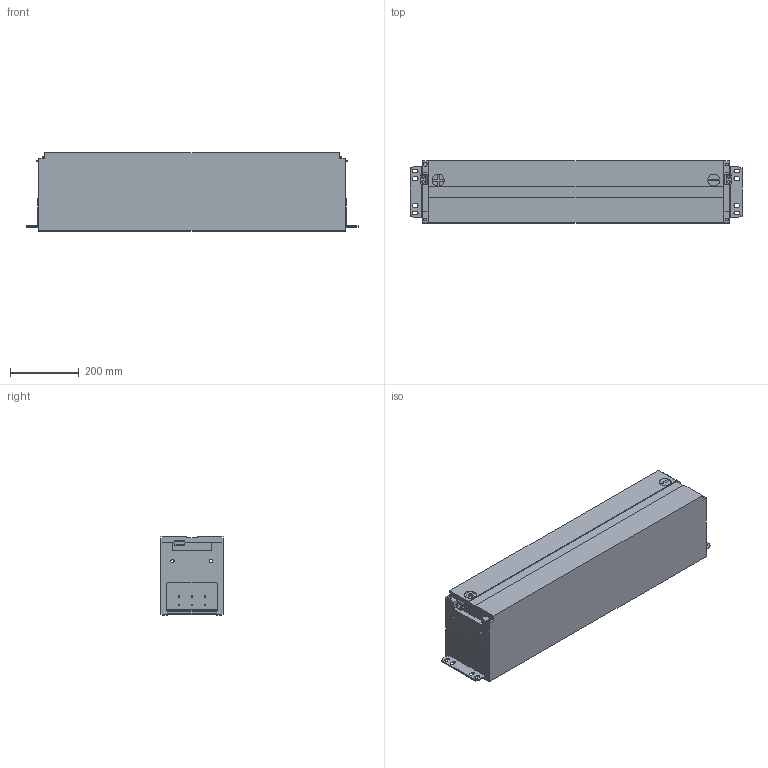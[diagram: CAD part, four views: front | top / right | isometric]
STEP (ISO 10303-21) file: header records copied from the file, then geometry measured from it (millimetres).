
FILE_DESCRIPTION(('CATIA V5 STEP Exchange'),'2;1');
FILE_NAME('E:\work\【02】CBB\二代、三代模组参数化模型\240Ah-11000-1P12S.stp','2017-02-16T07:26:14+00:00',('none'),('none'),'CATIA Version 5 Release 21 GA (IN-10)','CATIA V5 STEP AP214','none');
FILE_SCHEMA(('AUTOMOTIVE_DESIGN { 1 0 10303 214 1 1 1 1 }'));
Length unit declared in the file: millimetre
Products named in the file (1): N176-240M-11000-All
Bounding box: 963.6 x 180 x 226.6 mm (x, y, z)
Volume: 35667372.2 mm3; surface area: 1333418.7 mm2
Topology: 4 solids, 4 shells, 244 faces, 692 edges, 472 vertices
Faces by surface type: plane 158, cylinder 86
Entity records: 7652 total; most frequent: ORIENTED_EDGE 1368, CARTESIAN_POINT 1348, DIRECTION 1058, EDGE_CURVE 684, VECTOR 520, LINE 520, VERTEX_POINT 456, AXIS2_PLACEMENT_3D 356
